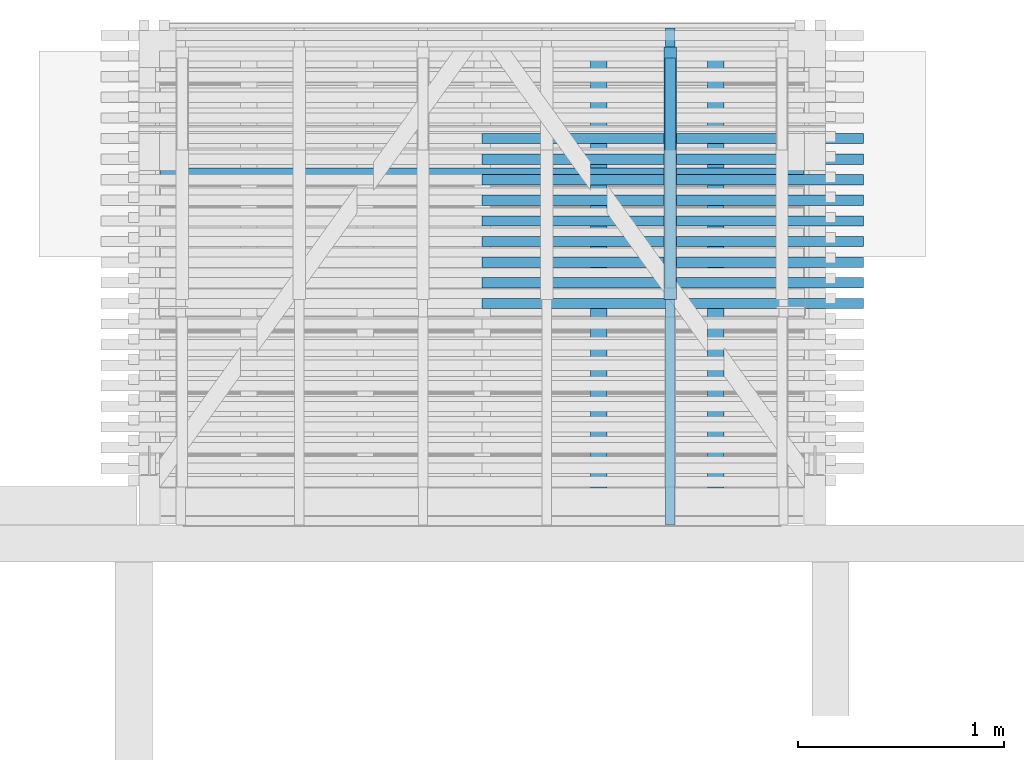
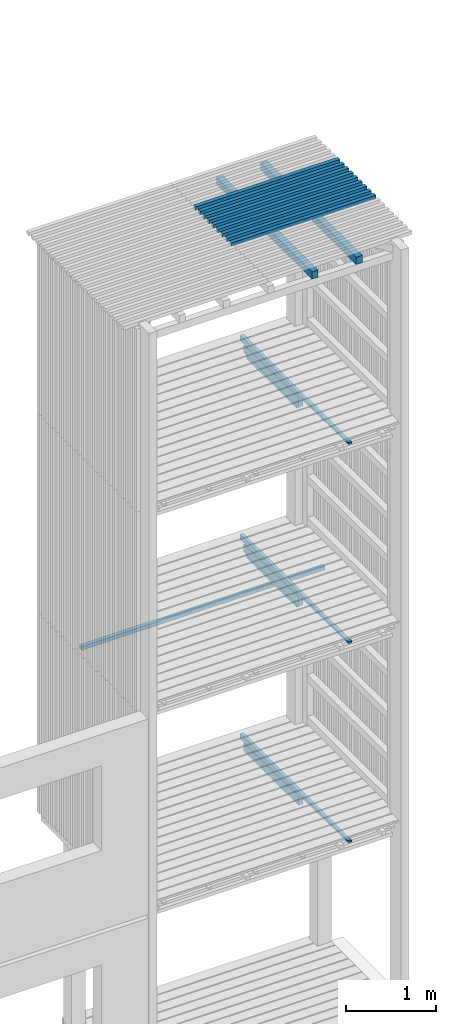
# One storey, part 76 of 182: 20 beams.
"""IFC2X3 building model written with IfcOpenShell, lengths in metres."""

from ifc_helpers import new_model, si_unit, frame, origin, place, context, project, spatial, faceted_brep, element, save


model = new_model("IFC2X3")

# Units and contexts
model_context = context("Model", 3, precision=1e-06, world=origin())
ifc_project = project(units=[si_unit("LENGTHUNIT", "METRE"), si_unit("PLANEANGLEUNIT", "RADIAN")], contexts=[model_context])

# Site, building, storey
site = spatial("IfcSite", under=ifc_project, CompositionType="ELEMENT")
building = spatial("IfcBuilding", under=site, CompositionType="ELEMENT")
storey = spatial("IfcBuildingStorey", under=building, Name="vs", CompositionType="ELEMENT", Elevation=-0.85)

# Beams
placement = place(None, origin())
beam_1_placement = place(placement, frame((25.62299999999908, 12.735077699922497, 5.217399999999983), z_axis=(0.0, 0.0, 1.0), x_axis=(0.0, -1.0, 0.0)))
element("IfcBeam", 1, at=beam_1_placement, inside=storey, Name="Calage", context=model_context, shape_type="Brep", body=[
    faceted_brep([(0.0, -0.025000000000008, -0.025), (0.0, -0.025000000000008, 0.024999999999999), (0.0, 0.024999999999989, 0.024999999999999), (0.0, 0.024999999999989, -0.025), (1.115000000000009, 0.024999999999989, 0.024999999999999), (1.115000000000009, -0.025000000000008, 0.024999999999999), (1.115000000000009, -0.025000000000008, -0.025), (1.115000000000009, 0.024999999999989, -0.025), (0.0, 0.024999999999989, 0.024999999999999), (0.0, -0.025000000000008, 0.024999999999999), (1.115000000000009, -0.025000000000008, 0.024999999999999), (1.115000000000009, 0.024999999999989, 0.024999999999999), (1.115000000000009, -0.025000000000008, 0.024999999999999), (0.0, -0.025000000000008, 0.024999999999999), (0.0, -0.025000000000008, -0.025), (1.115000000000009, -0.025000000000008, -0.025), (1.115000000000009, -0.025000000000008, -0.025), (0.0, -0.025000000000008, -0.025), (0.0, 0.024999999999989, -0.025), (1.115000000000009, 0.024999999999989, -0.025), (1.115000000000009, 0.024999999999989, -0.025), (0.0, 0.024999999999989, -0.025), (0.0, 0.024999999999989, 0.024999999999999), (1.115000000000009, 0.024999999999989, 0.024999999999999)], [[[0, 1, 2, 3]], [[4, 5, 6, 7]], [[8, 9, 10, 11]], [[12, 13, 14, 15]], [[16, 17, 18, 19]], [[20, 21, 22, 23]]]),
])
beam_2_placement = place(placement, frame((25.84333333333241, 10.650077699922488, 10.404999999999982), z_axis=(0.0, 0.0, 1.0), x_axis=(0.0, 1.0, 0.0)))
element("IfcBeam", 2, at=beam_2_placement, inside=storey, Name="Support bardage", context=model_context, shape_type="Brep", body=[
    faceted_brep([(2.120000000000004, -0.040000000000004, 0.050000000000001), (2.120000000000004, 0.039999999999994, 0.050000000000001), (3e-15, 0.039999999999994, 0.050000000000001), (3e-15, -0.040000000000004, 0.050000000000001), (3e-15, 0.039999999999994, 0.050000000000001), (2.120000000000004, 0.039999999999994, 0.050000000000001), (2.120000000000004, 0.039999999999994, -0.050000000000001), (3e-15, 0.039999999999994, -0.050000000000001), (2.120000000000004, 0.039999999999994, 0.050000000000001), (2.120000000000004, -0.040000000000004, 0.050000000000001), (2.120000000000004, -0.040000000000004, -0.050000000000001), (2.120000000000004, 0.039999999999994, -0.050000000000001), (2.120000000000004, -0.040000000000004, -0.050000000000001), (2.120000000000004, -0.040000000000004, 0.050000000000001), (3e-15, -0.040000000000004, 0.050000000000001), (3e-15, -0.040000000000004, -0.050000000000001), (3e-15, 0.039999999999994, -0.050000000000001), (2.120000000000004, 0.039999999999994, -0.050000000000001), (2.120000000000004, -0.040000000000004, -0.050000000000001), (3e-15, -0.040000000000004, -0.050000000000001), (3e-15, 0.039999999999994, 0.050000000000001), (3e-15, 0.039999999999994, -0.050000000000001), (3e-15, -0.040000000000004, -0.050000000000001), (3e-15, -0.040000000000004, 0.050000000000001)], [[[0, 1, 2, 3]], [[4, 5, 6, 7]], [[8, 9, 10, 11]], [[12, 13, 14, 15]], [[16, 17, 18, 19]], [[20, 21, 22, 23]]]),
])
beam_3_placement = place(placement, frame((25.276666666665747, 10.650077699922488, 10.404999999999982), z_axis=(0.0, 0.0, 1.0), x_axis=(0.0, 1.0, 0.0)))
element("IfcBeam", 3, at=beam_3_placement, inside=storey, Name="Support bardage", context=model_context, shape_type="Brep", body=[
    faceted_brep([(2.120000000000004, -0.039999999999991, 0.050000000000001), (2.120000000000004, 0.040000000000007, 0.050000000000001), (3e-15, 0.040000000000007, 0.050000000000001), (3e-15, -0.039999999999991, 0.050000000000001), (3e-15, 0.040000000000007, 0.050000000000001), (2.120000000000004, 0.040000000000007, 0.050000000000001), (2.120000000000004, 0.040000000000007, -0.050000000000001), (3e-15, 0.040000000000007, -0.050000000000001), (2.120000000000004, 0.040000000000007, 0.050000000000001), (2.120000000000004, -0.039999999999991, 0.050000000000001), (2.120000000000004, -0.039999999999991, -0.050000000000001), (2.120000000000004, 0.040000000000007, -0.050000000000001), (2.120000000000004, -0.039999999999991, -0.050000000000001), (2.120000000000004, -0.039999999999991, 0.050000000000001), (3e-15, -0.039999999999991, 0.050000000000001), (3e-15, -0.039999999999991, -0.050000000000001), (3e-15, 0.040000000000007, -0.050000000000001), (2.120000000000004, 0.040000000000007, -0.050000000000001), (2.120000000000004, -0.039999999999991, -0.050000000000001), (3e-15, -0.039999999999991, -0.050000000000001), (3e-15, 0.040000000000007, 0.050000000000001), (3e-15, 0.040000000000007, -0.050000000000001), (3e-15, -0.039999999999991, -0.050000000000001), (3e-15, -0.039999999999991, 0.050000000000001)], [[[0, 1, 2, 3]], [[4, 5, 6, 7]], [[8, 9, 10, 11]], [[12, 13, 14, 15]], [[16, 17, 18, 19]], [[20, 21, 22, 23]]]),
])
beam_4_placement = place(placement, frame((25.62299999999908, 12.735077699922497, 7.91739999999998), z_axis=(0.0, 0.0, 1.0), x_axis=(0.0, -1.0, 0.0)))
element("IfcBeam", 4, at=beam_4_placement, inside=storey, Name="Calage", context=model_context, shape_type="Brep", body=[
    faceted_brep([(0.0, -0.025000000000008, -0.025), (0.0, -0.025000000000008, 0.024999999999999), (0.0, 0.024999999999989, 0.024999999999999), (0.0, 0.024999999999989, -0.025), (1.115000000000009, 0.024999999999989, 0.024999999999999), (1.115000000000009, -0.025000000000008, 0.024999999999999), (1.115000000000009, -0.025000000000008, -0.025), (1.115000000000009, 0.024999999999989, -0.025), (0.0, 0.024999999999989, 0.024999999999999), (0.0, -0.025000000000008, 0.024999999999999), (1.115000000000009, -0.025000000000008, 0.024999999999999), (1.115000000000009, 0.024999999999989, 0.024999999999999), (1.115000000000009, -0.025000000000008, 0.024999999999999), (0.0, -0.025000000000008, 0.024999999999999), (0.0, -0.025000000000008, -0.025), (1.115000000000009, -0.025000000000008, -0.025), (1.115000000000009, -0.025000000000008, -0.025), (0.0, -0.025000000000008, -0.025), (0.0, 0.024999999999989, -0.025), (1.115000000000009, 0.024999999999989, -0.025), (1.115000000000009, 0.024999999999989, -0.025), (0.0, 0.024999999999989, -0.025), (0.0, 0.024999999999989, 0.024999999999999), (1.115000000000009, 0.024999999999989, 0.024999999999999)], [[[0, 1, 2, 3]], [[4, 5, 6, 7]], [[8, 9, 10, 11]], [[12, 13, 14, 15]], [[16, 17, 18, 19]], [[20, 21, 22, 23]]]),
])
beam_5_placement = place(placement, frame((26.559999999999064, 11.645077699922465, 10.47999999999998), z_axis=(0.0, 0.0, 1.0), x_axis=(-1.0, 0.0, 0.0)))
element("IfcBeam", 5, at=beam_5_placement, inside=storey, Name="Bardage", context=model_context, shape_type="Brep", body=[
    faceted_brep([(-3e-15, 0.024999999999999, 0.025000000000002), (-3e-15, -0.025000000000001, 0.025000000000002), (1.849999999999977, -0.025000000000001, 0.025000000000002), (1.849999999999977, 0.024999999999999, 0.025000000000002), (1.849999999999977, -0.025000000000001, 0.025000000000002), (-3e-15, -0.025000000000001, 0.025000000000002), (-3e-15, -0.025000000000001, -0.024999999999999), (1.849999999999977, -0.025000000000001, -0.024999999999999), (-3e-15, -0.025000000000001, 0.025000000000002), (-3e-15, 0.024999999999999, 0.025000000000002), (-3e-15, 0.024999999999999, -0.024999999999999), (-3e-15, -0.025000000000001, -0.024999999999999), (-3e-15, 0.024999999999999, -0.024999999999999), (-3e-15, 0.024999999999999, 0.025000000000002), (1.849999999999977, 0.024999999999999, 0.025000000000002), (1.849999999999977, 0.024999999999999, -0.024999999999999), (1.849999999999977, -0.025000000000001, -0.024999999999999), (-3e-15, -0.025000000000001, -0.024999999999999), (-3e-15, 0.024999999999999, -0.024999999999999), (1.849999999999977, 0.024999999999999, -0.024999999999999), (1.849999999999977, -0.025000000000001, 0.025000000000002), (1.849999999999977, -0.025000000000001, -0.024999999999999), (1.849999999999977, 0.024999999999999, -0.024999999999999), (1.849999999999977, 0.024999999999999, 0.025000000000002)], [[[0, 1, 2, 3]], [[4, 5, 6, 7]], [[8, 9, 10, 11]], [[12, 13, 14, 15]], [[16, 17, 18, 19]], [[20, 21, 22, 23]]]),
])
beam_6_placement = place(placement, frame((26.559999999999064, 11.745077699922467, 10.47999999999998), z_axis=(0.0, 0.0, 1.0), x_axis=(-1.0, 0.0, 0.0)))
element("IfcBeam", 6, at=beam_6_placement, inside=storey, Name="Bardage", context=model_context, shape_type="Brep", body=[
    faceted_brep([(-3e-15, 0.024999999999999, 0.025000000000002), (-3e-15, -0.024999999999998, 0.025000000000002), (1.849999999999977, -0.024999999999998, 0.025000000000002), (1.849999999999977, 0.024999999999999, 0.025000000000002), (1.849999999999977, -0.024999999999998, 0.025000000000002), (-3e-15, -0.024999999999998, 0.025000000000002), (-3e-15, -0.024999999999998, -0.024999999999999), (1.849999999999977, -0.024999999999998, -0.024999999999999), (-3e-15, -0.024999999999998, 0.025000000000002), (-3e-15, 0.024999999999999, 0.025000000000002), (-3e-15, 0.024999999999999, -0.024999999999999), (-3e-15, -0.024999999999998, -0.024999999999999), (-3e-15, 0.024999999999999, -0.024999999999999), (-3e-15, 0.024999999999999, 0.025000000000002), (1.849999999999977, 0.024999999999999, 0.025000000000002), (1.849999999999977, 0.024999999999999, -0.024999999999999), (1.849999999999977, -0.024999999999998, -0.024999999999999), (-3e-15, -0.024999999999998, -0.024999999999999), (-3e-15, 0.024999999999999, -0.024999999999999), (1.849999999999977, 0.024999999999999, -0.024999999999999), (1.849999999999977, -0.024999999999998, 0.025000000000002), (1.849999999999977, -0.024999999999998, -0.024999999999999), (1.849999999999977, 0.024999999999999, -0.024999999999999), (1.849999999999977, 0.024999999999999, 0.025000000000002)], [[[0, 1, 2, 3]], [[4, 5, 6, 7]], [[8, 9, 10, 11]], [[12, 13, 14, 15]], [[16, 17, 18, 19]], [[20, 21, 22, 23]]]),
])
beam_7_placement = place(placement, frame((25.622999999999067, 11.565077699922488, 2.604249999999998), z_axis=(0.0, 0.0, 1.0), x_axis=(0.0, 1.0, 0.0)))
element("IfcBeam", 7, at=beam_7_placement, inside=storey, Name="Solive", context=model_context, shape_type="Brep", body=[
    faceted_brep([(0.0, -0.029999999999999, -0.06185), (1.225000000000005, -0.029999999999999, -0.06185), (1.225000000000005, -0.029999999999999, 0.037349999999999), (0.0, -0.029999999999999, 0.06185), (0.0, 0.030000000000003, -0.06185), (1.225000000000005, 0.029999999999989, -0.06185), (1.225000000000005, -0.029999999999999, -0.06185), (0.0, -0.029999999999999, -0.06185), (0.0, 0.030000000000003, 0.06185), (0.0, 0.030000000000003, -0.06185), (0.0, -0.029999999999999, -0.06185), (0.0, -0.029999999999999, 0.06185), (1.225000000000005, 0.029999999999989, -0.06185), (0.0, 0.030000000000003, -0.06185), (0.0, 0.030000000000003, 0.06185), (1.225000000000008, 0.029999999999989, 0.03735), (1.225000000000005, -0.029999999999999, 0.037349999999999), (1.225000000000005, -0.029999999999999, -0.06185), (1.225000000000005, 0.029999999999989, -0.06185), (1.225000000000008, 0.029999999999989, 0.03735), (0.0, -0.029999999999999, 0.06185), (1.225000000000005, -0.029999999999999, 0.037349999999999), (1.225000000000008, 0.029999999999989, 0.03735), (0.0, 0.030000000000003, 0.06185)], [[[0, 1, 2, 3]], [[4, 5, 6, 7]], [[8, 9, 10, 11]], [[12, 13, 14, 15]], [[16, 17, 18, 19]], [[20, 21, 22, 23]]]),
])
beam_8_placement = place(placement, frame((25.622999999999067, 11.565077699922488, 5.304249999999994), z_axis=(0.0, 0.0, 1.0), x_axis=(0.0, 1.0, 0.0)))
element("IfcBeam", 8, at=beam_8_placement, inside=storey, Name="Solive", context=model_context, shape_type="Brep", body=[
    faceted_brep([(0.0, -0.029999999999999, -0.061849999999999), (1.225000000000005, -0.029999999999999, -0.061849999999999), (1.225000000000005, -0.029999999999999, 0.03735), (0.0, -0.029999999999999, 0.06185), (0.0, 0.030000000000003, -0.061849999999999), (1.225000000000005, 0.029999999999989, -0.061849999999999), (1.225000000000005, -0.029999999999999, -0.061849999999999), (0.0, -0.029999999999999, -0.061849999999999), (0.0, 0.030000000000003, 0.061850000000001), (0.0, 0.030000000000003, -0.061849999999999), (0.0, -0.029999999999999, -0.061849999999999), (0.0, -0.029999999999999, 0.06185), (1.225000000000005, 0.029999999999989, -0.061849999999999), (0.0, 0.030000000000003, -0.061849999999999), (0.0, 0.030000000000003, 0.061850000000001), (1.225000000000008, 0.029999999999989, 0.03735), (1.225000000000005, -0.029999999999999, 0.03735), (1.225000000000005, -0.029999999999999, -0.061849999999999), (1.225000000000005, 0.029999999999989, -0.061849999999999), (1.225000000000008, 0.029999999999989, 0.03735), (0.0, -0.029999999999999, 0.06185), (1.225000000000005, -0.029999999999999, 0.03735), (1.225000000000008, 0.029999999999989, 0.03735), (0.0, 0.030000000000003, 0.061850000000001)], [[[0, 1, 2, 3]], [[4, 5, 6, 7]], [[8, 9, 10, 11]], [[12, 13, 14, 15]], [[16, 17, 18, 19]], [[20, 21, 22, 23]]]),
])
beam_9_placement = place(placement, frame((26.559999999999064, 12.045077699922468, 10.47999999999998), z_axis=(0.0, 0.0, 1.0), x_axis=(-1.0, 0.0, 0.0)))
element("IfcBeam", 9, at=beam_9_placement, inside=storey, Name="Bardage", context=model_context, shape_type="Brep", body=[
    faceted_brep([(-3e-15, 0.025000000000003, 0.025000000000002), (-3e-15, -0.024999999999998, 0.025000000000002), (1.849999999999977, -0.025000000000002, 0.025000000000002), (1.849999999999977, 0.025000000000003, 0.025000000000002), (1.849999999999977, -0.025000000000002, 0.025000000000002), (-3e-15, -0.024999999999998, 0.025000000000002), (-3e-15, -0.024999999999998, -0.024999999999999), (1.849999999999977, -0.025000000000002, -0.024999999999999), (-3e-15, -0.024999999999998, 0.025000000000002), (-3e-15, 0.025000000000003, 0.025000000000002), (-3e-15, 0.025000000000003, -0.024999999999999), (-3e-15, -0.024999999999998, -0.024999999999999), (-3e-15, 0.025000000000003, -0.024999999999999), (-3e-15, 0.025000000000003, 0.025000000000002), (1.849999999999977, 0.025000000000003, 0.025000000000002), (1.849999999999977, 0.025000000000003, -0.024999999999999), (1.849999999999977, -0.025000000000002, -0.024999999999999), (-3e-15, -0.024999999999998, -0.024999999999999), (-3e-15, 0.025000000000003, -0.024999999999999), (1.849999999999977, 0.025000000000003, -0.024999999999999), (1.849999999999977, -0.025000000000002, 0.025000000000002), (1.849999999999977, -0.025000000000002, -0.024999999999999), (1.849999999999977, 0.025000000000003, -0.024999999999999), (1.849999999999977, 0.025000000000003, 0.025000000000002)], [[[0, 1, 2, 3]], [[4, 5, 6, 7]], [[8, 9, 10, 11]], [[12, 13, 14, 15]], [[16, 17, 18, 19]], [[20, 21, 22, 23]]]),
])
beam_10_placement = place(placement, frame((26.559999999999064, 12.345077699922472, 10.47999999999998), z_axis=(0.0, 0.0, 1.0), x_axis=(-1.0, 0.0, 0.0)))
element("IfcBeam", 10, at=beam_10_placement, inside=storey, Name="Bardage", context=model_context, shape_type="Brep", body=[
    faceted_brep([(-3e-15, 0.025000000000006, 0.025000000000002), (-3e-15, -0.024999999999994, 0.025000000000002), (1.849999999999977, -0.024999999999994, 0.025000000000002), (1.849999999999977, 0.025000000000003, 0.025000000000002), (1.849999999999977, -0.024999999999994, 0.025000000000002), (-3e-15, -0.024999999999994, 0.025000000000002), (-3e-15, -0.024999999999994, -0.024999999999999), (1.849999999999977, -0.024999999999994, -0.024999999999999), (-3e-15, -0.024999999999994, 0.025000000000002), (-3e-15, 0.025000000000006, 0.025000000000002), (-3e-15, 0.025000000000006, -0.024999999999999), (-3e-15, -0.024999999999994, -0.024999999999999), (-3e-15, 0.025000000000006, -0.024999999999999), (-3e-15, 0.025000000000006, 0.025000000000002), (1.849999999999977, 0.025000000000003, 0.025000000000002), (1.849999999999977, 0.025000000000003, -0.024999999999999), (1.849999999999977, -0.024999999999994, -0.024999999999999), (-3e-15, -0.024999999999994, -0.024999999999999), (-3e-15, 0.025000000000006, -0.024999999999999), (1.849999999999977, 0.025000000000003, -0.024999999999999), (1.849999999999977, -0.024999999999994, 0.025000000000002), (1.849999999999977, -0.024999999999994, -0.024999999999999), (1.849999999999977, 0.025000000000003, -0.024999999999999), (1.849999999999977, 0.025000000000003, 0.025000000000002)], [[[0, 1, 2, 3]], [[4, 5, 6, 7]], [[8, 9, 10, 11]], [[12, 13, 14, 15]], [[16, 17, 18, 19]], [[20, 21, 22, 23]]]),
])
beam_11_placement = place(placement, frame((26.559999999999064, 12.245077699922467, 10.47999999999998), z_axis=(0.0, 0.0, 1.0), x_axis=(-1.0, 0.0, 0.0)))
element("IfcBeam", 11, at=beam_11_placement, inside=storey, Name="Bardage", context=model_context, shape_type="Brep", body=[
    faceted_brep([(-3e-15, 0.024999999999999, 0.025000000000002), (-3e-15, -0.024999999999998, 0.025000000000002), (1.849999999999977, -0.024999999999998, 0.025000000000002), (1.849999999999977, 0.024999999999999, 0.025000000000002), (1.849999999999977, -0.024999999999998, 0.025000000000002), (-3e-15, -0.024999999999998, 0.025000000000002), (-3e-15, -0.024999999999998, -0.024999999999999), (1.849999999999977, -0.024999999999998, -0.024999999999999), (-3e-15, -0.024999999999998, 0.025000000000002), (-3e-15, 0.024999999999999, 0.025000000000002), (-3e-15, 0.024999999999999, -0.024999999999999), (-3e-15, -0.024999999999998, -0.024999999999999), (-3e-15, 0.024999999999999, -0.024999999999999), (-3e-15, 0.024999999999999, 0.025000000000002), (1.849999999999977, 0.024999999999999, 0.025000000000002), (1.849999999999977, 0.024999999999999, -0.024999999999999), (1.849999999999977, -0.024999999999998, -0.024999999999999), (-3e-15, -0.024999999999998, -0.024999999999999), (-3e-15, 0.024999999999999, -0.024999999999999), (1.849999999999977, 0.024999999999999, -0.024999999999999), (1.849999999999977, -0.024999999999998, 0.025000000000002), (1.849999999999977, -0.024999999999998, -0.024999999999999), (1.849999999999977, 0.024999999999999, -0.024999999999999), (1.849999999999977, 0.024999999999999, 0.025000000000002)], [[[0, 1, 2, 3]], [[4, 5, 6, 7]], [[8, 9, 10, 11]], [[12, 13, 14, 15]], [[16, 17, 18, 19]], [[20, 21, 22, 23]]]),
])
beam_12_placement = place(placement, frame((26.559999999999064, 12.145077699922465, 10.47999999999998), z_axis=(0.0, 0.0, 1.0), x_axis=(-1.0, 0.0, 0.0)))
element("IfcBeam", 12, at=beam_12_placement, inside=storey, Name="Bardage", context=model_context, shape_type="Brep", body=[
    faceted_brep([(-3e-15, 0.024999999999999, 0.025000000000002), (-3e-15, -0.025000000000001, 0.025000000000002), (1.849999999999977, -0.025000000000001, 0.025000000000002), (1.849999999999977, 0.024999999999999, 0.025000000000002), (1.849999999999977, -0.025000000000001, 0.025000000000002), (-3e-15, -0.025000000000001, 0.025000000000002), (-3e-15, -0.025000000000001, -0.024999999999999), (1.849999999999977, -0.025000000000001, -0.024999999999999), (-3e-15, -0.025000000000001, 0.025000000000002), (-3e-15, 0.024999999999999, 0.025000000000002), (-3e-15, 0.024999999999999, -0.024999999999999), (-3e-15, -0.025000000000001, -0.024999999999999), (-3e-15, 0.024999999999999, -0.024999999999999), (-3e-15, 0.024999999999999, 0.025000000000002), (1.849999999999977, 0.024999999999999, 0.025000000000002), (1.849999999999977, 0.024999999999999, -0.024999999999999), (1.849999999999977, -0.025000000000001, -0.024999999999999), (-3e-15, -0.025000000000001, -0.024999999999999), (-3e-15, 0.024999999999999, -0.024999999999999), (1.849999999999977, 0.024999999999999, -0.024999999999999), (1.849999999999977, -0.025000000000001, 0.025000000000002), (1.849999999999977, -0.025000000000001, -0.024999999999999), (1.849999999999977, 0.024999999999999, -0.024999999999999), (1.849999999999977, 0.024999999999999, 0.025000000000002)], [[[0, 1, 2, 3]], [[4, 5, 6, 7]], [[8, 9, 10, 11]], [[12, 13, 14, 15]], [[16, 17, 18, 19]], [[20, 21, 22, 23]]]),
])
beam_13_placement = place(placement, frame((25.622999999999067, 11.565077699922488, 8.00424999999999), z_axis=(0.0, 0.0, 1.0), x_axis=(1.2e-14, 1.0, 0.0)))
element("IfcBeam", 13, at=beam_13_placement, inside=storey, Name="Solive", context=model_context, shape_type="Brep", body=[
    faceted_brep([(0.0, -0.029999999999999, -0.061849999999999), (1.225000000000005, -0.029999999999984, -0.061849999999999), (1.225000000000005, -0.029999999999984, 0.037349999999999), (0.0, -0.029999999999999, 0.061849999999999), (-1e-15, 0.030000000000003, -0.061849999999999), (1.225000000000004, 0.030000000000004, -0.061849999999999), (1.225000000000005, -0.029999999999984, -0.061849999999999), (0.0, -0.029999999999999, -0.061849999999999), (-1e-15, 0.030000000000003, 0.061850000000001), (-1e-15, 0.030000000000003, -0.061849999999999), (0.0, -0.029999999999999, -0.061849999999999), (0.0, -0.029999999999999, 0.061849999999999), (1.225000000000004, 0.030000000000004, -0.061849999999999), (-1e-15, 0.030000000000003, -0.061849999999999), (-1e-15, 0.030000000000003, 0.061850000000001), (1.225000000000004, 0.030000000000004, 0.037349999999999), (1.225000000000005, -0.029999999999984, 0.037349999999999), (1.225000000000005, -0.029999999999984, -0.061849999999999), (1.225000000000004, 0.030000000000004, -0.061849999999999), (1.225000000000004, 0.030000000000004, 0.037349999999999), (0.0, -0.029999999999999, 0.061849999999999), (1.225000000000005, -0.029999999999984, 0.037349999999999), (1.225000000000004, 0.030000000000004, 0.037349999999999), (-1e-15, 0.030000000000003, 0.061850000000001)], [[[0, 1, 2, 3]], [[4, 5, 6, 7]], [[8, 9, 10, 11]], [[12, 13, 14, 15]], [[16, 17, 18, 19]], [[20, 21, 22, 23]]]),
])
beam_14_placement = place(placement, frame((25.622999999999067, 10.470077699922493, 2.684400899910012), z_axis=(0.0, 0.0, 1.0), x_axis=(0.0, 1.0, 0.0)))
element("IfcBeam", 14, at=beam_14_placement, inside=storey, Name="Calage", context=model_context, shape_type="Brep", body=[
    faceted_brep([(2.410000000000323, -0.022500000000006, -0.035599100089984), (0.0, -0.022500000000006, 0.012600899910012), (0.0, 0.022499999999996, 0.012600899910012), (2.410000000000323, 0.022499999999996, -0.035599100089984), (0.0, 0.022499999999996, 0.035599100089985), (0.0, 0.022499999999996, 0.012600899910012), (0.0, -0.022500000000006, 0.012600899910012), (0.0, -0.022500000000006, 0.035599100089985), (2.410000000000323, 0.022499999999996, -0.035599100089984), (0.0, 0.022499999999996, 0.012600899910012), (0.0, 0.022499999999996, 0.035599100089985), (2.410000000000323, 0.022499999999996, 0.035599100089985), (2.410000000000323, -0.022500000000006, 0.035599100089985), (0.0, -0.022500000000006, 0.035599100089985), (0.0, -0.022500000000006, 0.012600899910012), (2.410000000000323, -0.022500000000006, -0.035599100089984), (2.410000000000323, 0.022499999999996, 0.035599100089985), (0.0, 0.022499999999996, 0.035599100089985), (0.0, -0.022500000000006, 0.035599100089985), (2.410000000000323, -0.022500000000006, 0.035599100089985), (2.410000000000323, 0.022499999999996, -0.035599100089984), (2.410000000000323, 0.022499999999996, 0.035599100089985), (2.410000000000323, -0.022500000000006, 0.035599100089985), (2.410000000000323, -0.022500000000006, -0.035599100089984)], [[[0, 1, 2, 3]], [[4, 5, 6, 7]], [[8, 9, 10, 11]], [[12, 13, 14, 15]], [[16, 17, 18, 19]], [[20, 21, 22, 23]]]),
])
beam_15_placement = place(placement, frame((25.622999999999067, 10.470077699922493, 8.084400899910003), z_axis=(0.0, 0.0, 1.0), x_axis=(6e-15, 1.0, 0.0)))
element("IfcBeam", 15, at=beam_15_placement, inside=storey, Name="Calage", context=model_context, shape_type="Brep", body=[
    faceted_brep([(2.410000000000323, -0.022499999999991, -0.035599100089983), (0.0, -0.022500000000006, 0.012600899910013), (0.0, 0.022499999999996, 0.012600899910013), (2.410000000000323, 0.022500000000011, -0.035599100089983), (0.0, 0.022499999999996, 0.035599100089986), (0.0, 0.022499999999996, 0.012600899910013), (0.0, -0.022500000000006, 0.012600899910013), (0.0, -0.022500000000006, 0.035599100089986), (2.410000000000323, 0.022500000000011, -0.035599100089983), (0.0, 0.022499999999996, 0.012600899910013), (0.0, 0.022499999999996, 0.035599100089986), (2.410000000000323, 0.022500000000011, 0.035599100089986), (2.410000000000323, -0.022499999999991, 0.035599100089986), (0.0, -0.022500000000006, 0.035599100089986), (0.0, -0.022500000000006, 0.012600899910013), (2.410000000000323, -0.022499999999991, -0.035599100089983), (2.410000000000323, 0.022500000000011, 0.035599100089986), (0.0, 0.022499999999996, 0.035599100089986), (0.0, -0.022500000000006, 0.035599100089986), (2.410000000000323, -0.022499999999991, 0.035599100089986), (2.410000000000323, 0.022500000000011, -0.035599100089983), (2.410000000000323, 0.022500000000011, 0.035599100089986), (2.410000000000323, -0.022499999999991, 0.035599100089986), (2.410000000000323, -0.022499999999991, -0.035599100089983)], [[[0, 1, 2, 3]], [[4, 5, 6, 7]], [[8, 9, 10, 11]], [[12, 13, 14, 15]], [[16, 17, 18, 19]], [[20, 21, 22, 23]]]),
])
beam_16_placement = place(placement, frame((26.559999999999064, 11.545077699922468, 10.47999999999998), z_axis=(0.0, 0.0, 1.0), x_axis=(-1.0, 0.0, 0.0)))
element("IfcBeam", 16, at=beam_16_placement, inside=storey, Name="Bardage", context=model_context, shape_type="Brep", body=[
    faceted_brep([(-3e-15, 0.025000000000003, 0.025000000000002), (-3e-15, -0.024999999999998, 0.025000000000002), (1.849999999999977, -0.024999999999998, 0.025000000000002), (1.849999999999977, 0.025000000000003, 0.025000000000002), (1.849999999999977, -0.024999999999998, 0.025000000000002), (-3e-15, -0.024999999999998, 0.025000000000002), (-3e-15, -0.024999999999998, -0.024999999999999), (1.849999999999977, -0.024999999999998, -0.024999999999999), (-3e-15, -0.024999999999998, 0.025000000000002), (-3e-15, 0.025000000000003, 0.025000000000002), (-3e-15, 0.025000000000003, -0.024999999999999), (-3e-15, -0.024999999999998, -0.024999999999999), (-3e-15, 0.025000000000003, -0.024999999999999), (-3e-15, 0.025000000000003, 0.025000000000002), (1.849999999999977, 0.025000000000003, 0.025000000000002), (1.849999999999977, 0.025000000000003, -0.024999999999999), (1.849999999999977, -0.024999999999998, -0.024999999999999), (-3e-15, -0.024999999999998, -0.024999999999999), (-3e-15, 0.025000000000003, -0.024999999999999), (1.849999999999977, 0.025000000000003, -0.024999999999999), (1.849999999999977, -0.024999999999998, 0.025000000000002), (1.849999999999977, -0.024999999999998, -0.024999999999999), (1.849999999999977, 0.025000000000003, -0.024999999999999), (1.849999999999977, 0.025000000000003, 0.025000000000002)], [[[0, 1, 2, 3]], [[4, 5, 6, 7]], [[8, 9, 10, 11]], [[12, 13, 14, 15]], [[16, 17, 18, 19]], [[20, 21, 22, 23]]]),
])
beam_17_placement = place(placement, frame((26.559999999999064, 11.945077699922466, 10.47999999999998), z_axis=(0.0, 0.0, 1.0), x_axis=(-1.0, 0.0, 0.0)))
element("IfcBeam", 17, at=beam_17_placement, inside=storey, Name="Bardage", context=model_context, shape_type="Brep", body=[
    faceted_brep([(-3e-15, 0.024999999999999, 0.025000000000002), (-3e-15, -0.025000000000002, 0.025000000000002), (1.849999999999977, -0.025000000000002, 0.025000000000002), (1.849999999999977, 0.024999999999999, 0.025000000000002), (1.849999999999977, -0.025000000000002, 0.025000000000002), (-3e-15, -0.025000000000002, 0.025000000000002), (-3e-15, -0.025000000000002, -0.024999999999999), (1.849999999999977, -0.025000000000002, -0.024999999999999), (-3e-15, -0.025000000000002, 0.025000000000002), (-3e-15, 0.024999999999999, 0.025000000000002), (-3e-15, 0.024999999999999, -0.024999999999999), (-3e-15, -0.025000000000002, -0.024999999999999), (-3e-15, 0.024999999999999, -0.024999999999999), (-3e-15, 0.024999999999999, 0.025000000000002), (1.849999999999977, 0.024999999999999, 0.025000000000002), (1.849999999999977, 0.024999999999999, -0.024999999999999), (1.849999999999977, -0.025000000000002, -0.024999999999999), (-3e-15, -0.025000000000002, -0.024999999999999), (-3e-15, 0.024999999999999, -0.024999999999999), (1.849999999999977, 0.024999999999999, -0.024999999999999), (1.849999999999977, -0.025000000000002, 0.025000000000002), (1.849999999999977, -0.025000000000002, -0.024999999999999), (1.849999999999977, 0.024999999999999, -0.024999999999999), (1.849999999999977, 0.024999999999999, 0.025000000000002)], [[[0, 1, 2, 3]], [[4, 5, 6, 7]], [[8, 9, 10, 11]], [[12, 13, 14, 15]], [[16, 17, 18, 19]], [[20, 21, 22, 23]]]),
])
beam_18_placement = place(placement, frame((25.622999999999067, 10.470077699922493, 5.384400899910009), z_axis=(0.0, 0.0, 1.0), x_axis=(0.0, 1.0, 0.0)))
element("IfcBeam", 18, at=beam_18_placement, inside=storey, Name="Calage", context=model_context, shape_type="Brep", body=[
    faceted_brep([(2.410000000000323, -0.022500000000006, -0.035599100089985), (0.0, -0.022500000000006, 0.012600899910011), (0.0, 0.022499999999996, 0.012600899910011), (2.410000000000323, 0.022499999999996, -0.035599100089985), (0.0, 0.022499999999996, 0.035599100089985), (0.0, 0.022499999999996, 0.012600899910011), (0.0, -0.022500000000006, 0.012600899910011), (0.0, -0.022500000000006, 0.035599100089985), (2.410000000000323, 0.022499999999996, -0.035599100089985), (0.0, 0.022499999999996, 0.012600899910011), (0.0, 0.022499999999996, 0.035599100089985), (2.410000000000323, 0.022499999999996, 0.035599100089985), (2.410000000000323, -0.022500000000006, 0.035599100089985), (0.0, -0.022500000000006, 0.035599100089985), (0.0, -0.022500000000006, 0.012600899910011), (2.410000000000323, -0.022500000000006, -0.035599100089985), (2.410000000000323, 0.022499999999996, 0.035599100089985), (0.0, 0.022499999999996, 0.035599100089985), (0.0, -0.022500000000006, 0.035599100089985), (2.410000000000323, -0.022500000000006, 0.035599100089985), (2.410000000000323, 0.022499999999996, -0.035599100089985), (2.410000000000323, 0.022499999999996, 0.035599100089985), (2.410000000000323, -0.022500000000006, 0.035599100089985), (2.410000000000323, -0.022500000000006, -0.035599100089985)], [[[0, 1, 2, 3]], [[4, 5, 6, 7]], [[8, 9, 10, 11]], [[12, 13, 14, 15]], [[16, 17, 18, 19]], [[20, 21, 22, 23]]]),
])
beam_19_placement = place(placement, frame((26.559999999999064, 11.845077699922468, 10.47999999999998), z_axis=(0.0, 0.0, 1.0), x_axis=(-1.0, 0.0, 0.0)))
element("IfcBeam", 19, at=beam_19_placement, inside=storey, Name="Bardage", context=model_context, shape_type="Brep", body=[
    faceted_brep([(-3e-15, 0.025000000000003, 0.025000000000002), (-3e-15, -0.024999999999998, 0.025000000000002), (1.849999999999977, -0.024999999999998, 0.025000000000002), (1.849999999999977, 0.025000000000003, 0.025000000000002), (1.849999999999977, -0.024999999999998, 0.025000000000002), (-3e-15, -0.024999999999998, 0.025000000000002), (-3e-15, -0.024999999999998, -0.024999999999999), (1.849999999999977, -0.024999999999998, -0.024999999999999), (-3e-15, -0.024999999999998, 0.025000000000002), (-3e-15, 0.025000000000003, 0.025000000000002), (-3e-15, 0.025000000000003, -0.024999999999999), (-3e-15, -0.024999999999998, -0.024999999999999), (-3e-15, 0.025000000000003, -0.024999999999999), (-3e-15, 0.025000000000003, 0.025000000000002), (1.849999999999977, 0.025000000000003, 0.025000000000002), (1.849999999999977, 0.025000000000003, -0.024999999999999), (1.849999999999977, -0.024999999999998, -0.024999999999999), (-3e-15, -0.024999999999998, -0.024999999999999), (-3e-15, 0.025000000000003, -0.024999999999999), (1.849999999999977, 0.025000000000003, -0.024999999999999), (1.849999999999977, -0.024999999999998, 0.025000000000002), (1.849999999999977, -0.024999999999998, -0.024999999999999), (1.849999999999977, 0.025000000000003, -0.024999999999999), (1.849999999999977, 0.025000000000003, 0.025000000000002)], [[[0, 1, 2, 3]], [[4, 5, 6, 7]], [[8, 9, 10, 11]], [[12, 13, 14, 15]], [[16, 17, 18, 19]], [[20, 21, 22, 23]]]),
])
beam_20_placement = place(placement, frame((26.269999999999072, 12.177577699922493, 5.167399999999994), z_axis=(0.0, 0.0, 1.0), x_axis=(-1.0, -1e-15, 0.0)))
element("IfcBeam", 20, at=beam_20_placement, inside=storey, Name="Bardage", context=model_context, shape_type="Brep", body=[
    faceted_brep([(3.120000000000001, 0.024999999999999, 0.024999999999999), (3.120000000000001, -0.025000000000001, 0.024999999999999), (3.120000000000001, -0.025000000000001, -0.024999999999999), (3.120000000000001, 0.024999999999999, -0.024999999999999), (-3e-15, -0.024999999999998, 0.024999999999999), (-3e-15, 0.025000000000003, 0.024999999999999), (-3e-15, 0.025000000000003, -0.024999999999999), (-3e-15, -0.024999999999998, -0.024999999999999), (-3e-15, -0.024999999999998, -0.024999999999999), (-3e-15, 0.025000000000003, -0.024999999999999), (3.120000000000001, 0.024999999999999, -0.024999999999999), (3.120000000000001, -0.025000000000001, -0.024999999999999), (-3e-15, -0.024999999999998, -0.024999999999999), (3.120000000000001, -0.025000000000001, -0.024999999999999), (3.120000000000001, -0.025000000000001, 0.024999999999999), (-3e-15, -0.024999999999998, 0.024999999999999), (3.120000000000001, 0.024999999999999, 0.024999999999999), (3.120000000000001, 0.024999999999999, -0.024999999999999), (-3e-15, 0.025000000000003, -0.024999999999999), (-3e-15, 0.025000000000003, 0.024999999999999), (3.120000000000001, 0.024999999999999, 0.024999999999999), (-3e-15, 0.025000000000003, 0.024999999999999), (-3e-15, -0.024999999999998, 0.024999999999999), (3.120000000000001, -0.025000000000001, 0.024999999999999)], [[[0, 1, 2, 3]], [[4, 5, 6, 7]], [[8, 9, 10, 11]], [[12, 13, 14, 15]], [[16, 17, 18, 19]], [[20, 21, 22, 23]]]),
])

save(model, "model.ifc")
